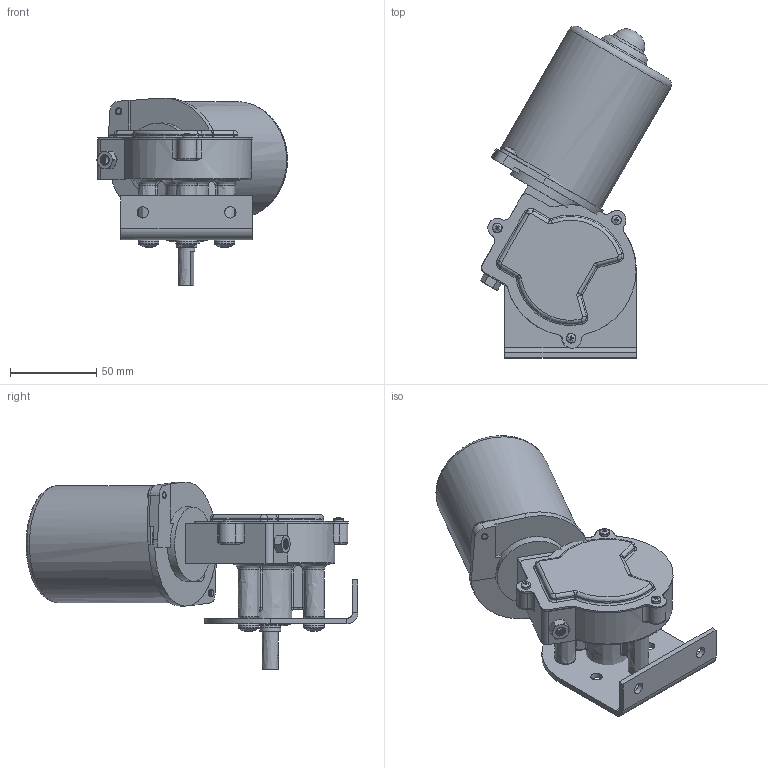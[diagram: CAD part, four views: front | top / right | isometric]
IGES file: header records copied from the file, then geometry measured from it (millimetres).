
Global section: file name: PN01007-38LB_UP; native system: unknown; preprocessor: unknown; author: unknown; organization: unknown; date: 20210719.112307; units: inch
Bounding box: 110.71 x 192.41 x 108.96 mm (x, y, z)
Volume: 176495.2 mm3; surface area: 132593.8 mm2
Topology: 17 solids, 17 shells, 905 faces, 2582 edges, 1732 vertices
Faces by surface type: bspline 905
